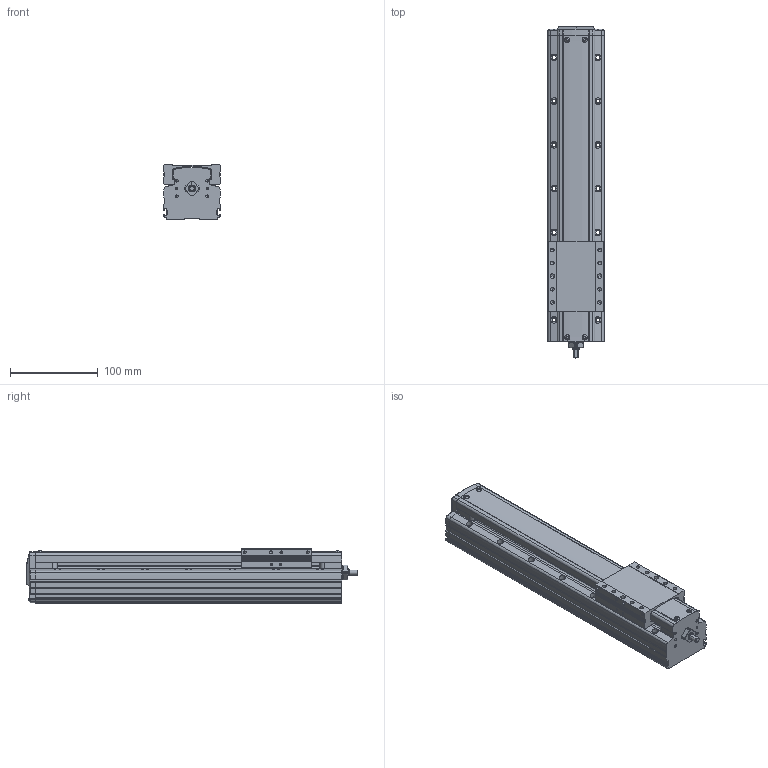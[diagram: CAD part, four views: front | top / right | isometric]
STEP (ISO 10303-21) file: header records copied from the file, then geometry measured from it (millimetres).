
FILE_DESCRIPTION(('STEP AP214'),'1');
FILE_NAME('Z:/Web/3D/PSA65/STP/PSA65-200 (3D)/PSA65ㅁㅁ-200.stp','2014-06-25T03:21:31',(' '),(' '),'Spatial InterOp 3D',' ',' ');
FILE_SCHEMA(('automotive_design'));
Length unit declared in the file: millimetre
Products named in the file (44): SLIDE; RRCV-PA060; 1; 2; 3; 4; 5; 6; 7; 8; 9; 10; 11; 12; 13; 14; 15; 16; 17; 18; 19; 20; 21; 22; 23; 24; 25; 26; 27; 28; 29; 30; 31; 스크루 : Round - M3.0 x 8.0; RN8 x 0.75; SHAFT-SAN65; BASE; 스크루 : Round - M3.0 x 6.0
Bounding box: 65 x 379.3 x 62 mm (x, y, z)
Volume: 1135663 mm3; surface area: 164826.3 mm2
Topology: 44 solids, 44 shells, 1612 faces, 4301 edges, 2746 vertices
Faces by surface type: plane 985, cylinder 427, cone 147, sphere 22, torus 16, bspline 15
Entity records: 64065 total; most frequent: CARTESIAN_POINT 10064, DIRECTION 8456, ORIENTED_EDGE 8398, EDGE_CURVE 4199, LINE 3060, VECTOR 3060, VERTEX_POINT 2746, AXIS2_PLACEMENT_3D 2698
